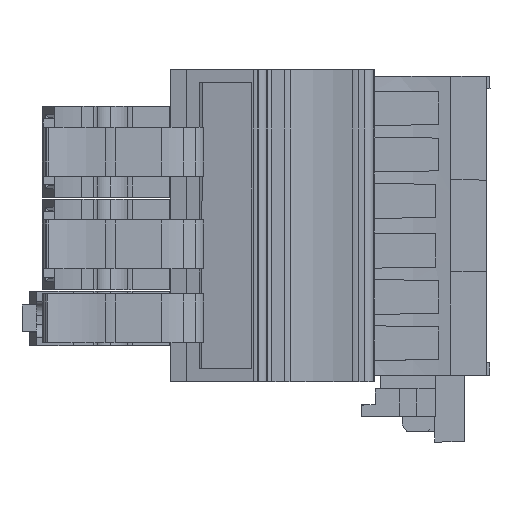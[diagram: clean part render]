
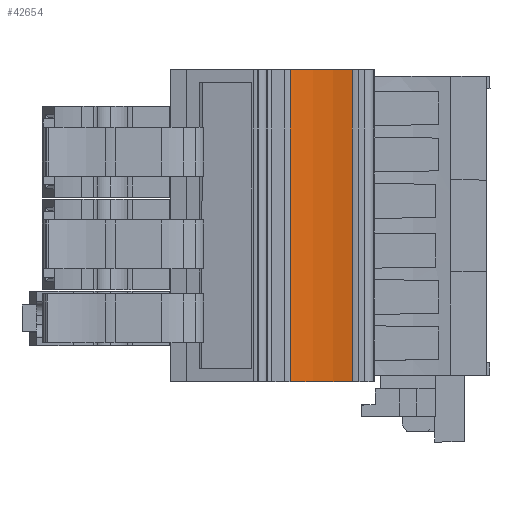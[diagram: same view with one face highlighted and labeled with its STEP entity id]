
A CAD part, left-side view. The second image highlights one B-rep face of the part: STEP entity #42654.
In plain terms, the highlighted cylindrical face has radius 15.05 mm (diameter 30.1 mm), a partial arc.
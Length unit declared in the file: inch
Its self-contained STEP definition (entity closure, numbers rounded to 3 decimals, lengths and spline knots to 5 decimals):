
#156=CARTESIAN_POINT('',(-3.58319,0.5,
0.));
#157=DIRECTION('',(0.,0.,1.));
#158=DIRECTION('',(0.981,0.196,0.));
#159=AXIS2_PLACEMENT_3D('',#156,#157,#158);
#161=CARTESIAN_POINT('',(-3.58319,0.5,
0.));
#162=DIRECTION('',(0.,0.,1.));
#163=DIRECTION('',(0.97,-0.243,0.));
#164=AXIS2_PLACEMENT_3D('',#161,#162,#163);
#2102=CARTESIAN_POINT('',(-3.58319,0.5,
1.37795));
#2103=DIRECTION('',(0.,0.,-1.));
#2104=DIRECTION('',(0.981,0.196,0.));
#2105=AXIS2_PLACEMENT_3D('',#2102,#2103,#2104);
#2107=CARTESIAN_POINT('',(-3.58319,0.5,
1.37795));
#2108=DIRECTION('',(0.,0.,-1.));
#2109=DIRECTION('',(0.976,0.22,0.));
#2110=AXIS2_PLACEMENT_3D('',#2107,#2108,#2109);
#2743=DIRECTION('',(0.,0.,1.));
#2744=VECTOR('',#2743,1.37795);
#2745=CARTESIAN_POINT('',(-3.00515,0.63017,
0.));
#2746=LINE('',#2745,#2744);
#2747=DIRECTION('',(0.,0.,1.));
#2748=VECTOR('',#2747,1.37795);
#2749=CARTESIAN_POINT('',(-3.00843,0.35603,
0.));
#2750=LINE('',#2749,#2748);
#30126=CARTESIAN_POINT('',(-3.00515,0.63017,
0.));
#30127=VERTEX_POINT('',#30126);
#30128=CARTESIAN_POINT('',(-3.00216,0.6161,
0.));
#30129=VERTEX_POINT('',#30128);
#30130=CARTESIAN_POINT('',(-3.00843,0.35603,
0.));
#30131=VERTEX_POINT('',#30130);
#30746=CARTESIAN_POINT('',(-3.00843,0.35603,
1.37795));
#30747=VERTEX_POINT('',#30746);
#30748=CARTESIAN_POINT('',(-3.00515,0.63017,
1.37795));
#30749=CARTESIAN_POINT('',(-3.00216,0.6161,
1.37795));
#30750=VERTEX_POINT('',#30748);
#30751=VERTEX_POINT('',#30749);
#42640=CARTESIAN_POINT('',(-3.58319,0.5,
1.37795));
#42641=DIRECTION('',(0.,0.,-1.));
#42642=DIRECTION('',(-0.981,-0.196,
0.));
#42643=AXIS2_PLACEMENT_3D('',#42640,#42641,#42642);
#42644=CYLINDRICAL_SURFACE('',#42643,0.59252);
#42645=ORIENTED_EDGE('',*,*,#39602,.T.);
#42646=ORIENTED_EDGE('',*,*,#42634,.T.);
#42647=ORIENTED_EDGE('',*,*,#41920,.T.);
#42648=ORIENTED_EDGE('',*,*,#41918,.T.);
#42650=ORIENTED_EDGE('',*,*,#42649,.F.);
#42651=ORIENTED_EDGE('',*,*,#39604,.T.);
#42652=EDGE_LOOP('',(#42645,#42646,#42647,#42648,#42650,#42651));
#42653=FACE_OUTER_BOUND('',#42652,.F.);
#42654=ADVANCED_FACE('',(#42653),#42644,.F.);
#160=CIRCLE('',#159,0.59252);
#165=CIRCLE('',#164,0.59252);
#2106=CIRCLE('',#2105,0.59252);
#2111=CIRCLE('',#2110,0.59252);
#39602=EDGE_CURVE('',#30129,#30127,#160,.T.);
#39604=EDGE_CURVE('',#30131,#30129,#165,.T.);
#41918=EDGE_CURVE('',#30751,#30747,#2106,.T.);
#41920=EDGE_CURVE('',#30750,#30751,#2111,.T.);
#42634=EDGE_CURVE('',#30127,#30750,#2746,.T.);
#42649=EDGE_CURVE('',#30131,#30747,#2750,.T.);
